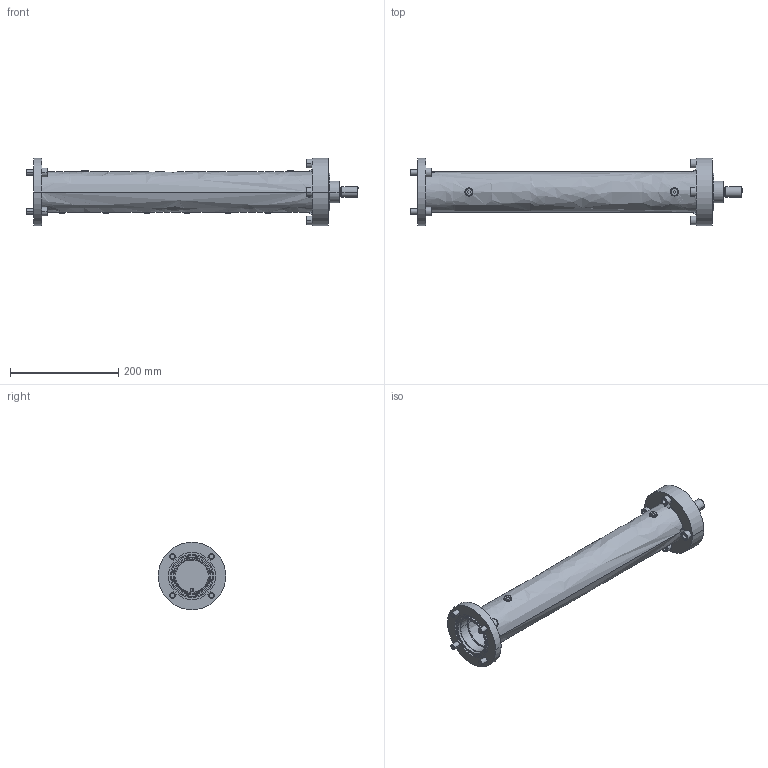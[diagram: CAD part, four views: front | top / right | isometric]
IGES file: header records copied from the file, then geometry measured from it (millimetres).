
Start section: Elysium IGES Interface
Global section: file name: \\sipapp01\Daten\Public\_BRN\Maßbilder - 3D - Explosionsdarstellungen\3D-Volumenmodelle SIPOS 7\Lineareinheiten 2SL78\KR_LA.3...11.igs; native system: Creo Elements/Direct Modeling 20.0C  26-Jan-2018; preprocessor: Creo Element/Direct IGES_3D V2.2; author: Unknown; organization: Unknown; date: 20200513.114131; units: millimetre
Bounding box: 614 x 125 x 125 mm (x, y, z)
Volume: 1224683 mm3; surface area: 314889.4 mm2
Topology: 1 solids, 9 shells, 542 faces, 1228 edges, 768 vertices
Faces by surface type: bspline 542
